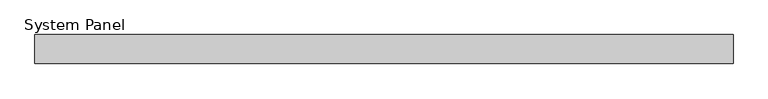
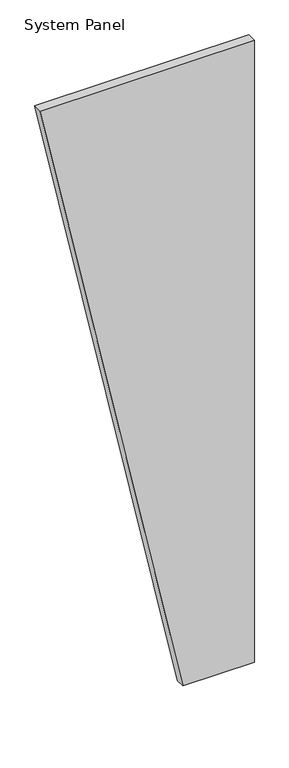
"""IFC4 building model written with IfcOpenShell, lengths in millimetres: plate geometry, System Panel : Equitilt_FlameGuard_50mm_Plain_Surfmist."""

from ifc_helpers import new_model, si_unit, frame, origin, place, context, project, spatial, polyline, outline, extrude, source, transform, mapped, element, save


def system_panel_8d9bcd60(model_context):
    return source(origin(), model_context, "Body", "SweptSolid", [
        extrude(outline(polyline([(0.0, 200.0), (0.0, 600.0), (3679.9704237, 600.0), (3679.9704237, -600.0), (0.0, 200.0)])), frame((0.0, -50.0, 0.0), z_axis=(0.0, 1.0, 0.0), x_axis=(0.0, 0.0, 1.0)), (0.0, 0.0, 1.0), 50.0),
    ])


if __name__ == "__main__":
    model = new_model("IFC4")
    model_context = context("Model", 3, world=origin())
    ifc_project = project(units=[si_unit("LENGTHUNIT", "METRE", prefix="MILLI")], contexts=[model_context])
    site = spatial("IfcSite", under=ifc_project)
    building = spatial("IfcBuilding", under=site)
    placement = place(None, origin())
    system_panel_shape = system_panel_8d9bcd60(model_context)
    element("IfcPlate", 1, ObjectType="System Panel : Equitilt_FlameGuard_50mm_Plain_Surfmist", at=placement, inside=building, context=model_context, shape_type="MappedRepresentation", body=[
        mapped(system_panel_shape, transform((0.0, 0.0, 0.0), x_axis=(1.0, 0.0, 0.0), y_axis=(0.0, 1.0, 0.0), z_axis=(0.0, 0.0, 1.0))),
    ])
    save(model, "model.ifc")
